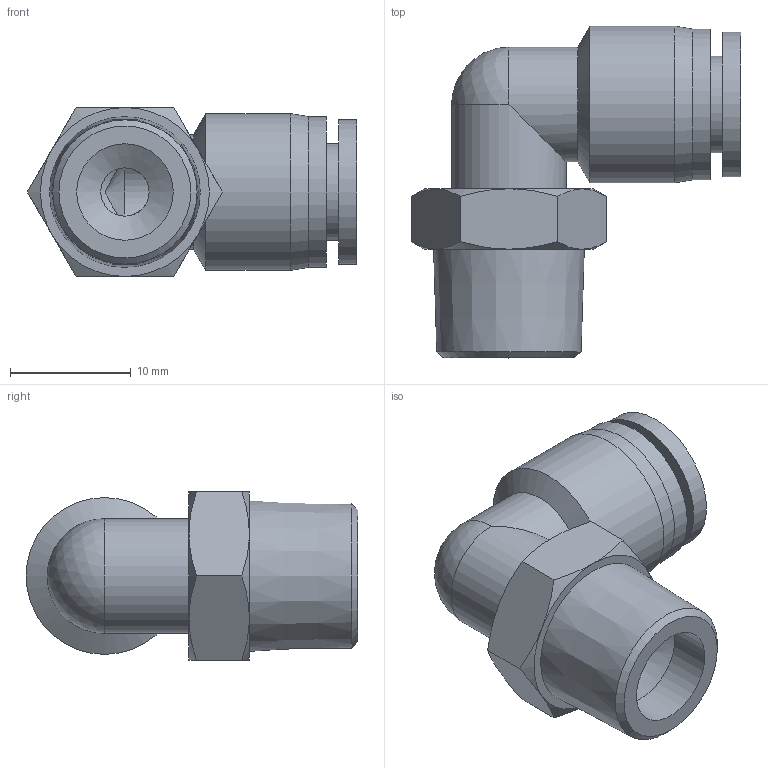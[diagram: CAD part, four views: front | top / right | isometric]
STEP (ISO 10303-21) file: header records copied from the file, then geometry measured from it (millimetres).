
FILE_DESCRIPTION((''),'2;1');
FILE_NAME('S:\UTecnico\ArchivioUT\Speciali Clienti\Speciali KONFIT\Plastica\RP\RP 72K\RP72K1406.stp','2012-05-16T09:03:45',('UT5'),(''),'Autodesk Inventor 2012','Autodesk Inventor 2012','');
FILE_SCHEMA(('AUTOMOTIVE_DESIGN { 1 0 10303 214 1 1 1 1 }'));
Length unit declared in the file: millimetre
Products named in the file (1): RP72K1406
Bounding box: 27.28 x 27.5 x 14 mm (x, y, z)
Volume: 3436.9 mm3; surface area: 2601.9 mm2
Topology: 1 solids, 1 shells, 41 faces, 87 edges, 52 vertices
Faces by surface type: cone 19, plane 12, cylinder 9, sphere 1
Full cylindrical faces by diameter (mm): 4 x1, 6 x1, 8 x2, 9.5 x2, 12 x1, 12.5 x1, 13 x1
Entity records: 1048 total; most frequent: CARTESIAN_POINT 253, DIRECTION 158, ORIENTED_EDGE 136, AXIS2_PLACEMENT_3D 76, EDGE_CURVE 68, EDGE_LOOP 61, VERTEX_POINT 47, FACE_OUTER_BOUND 41
